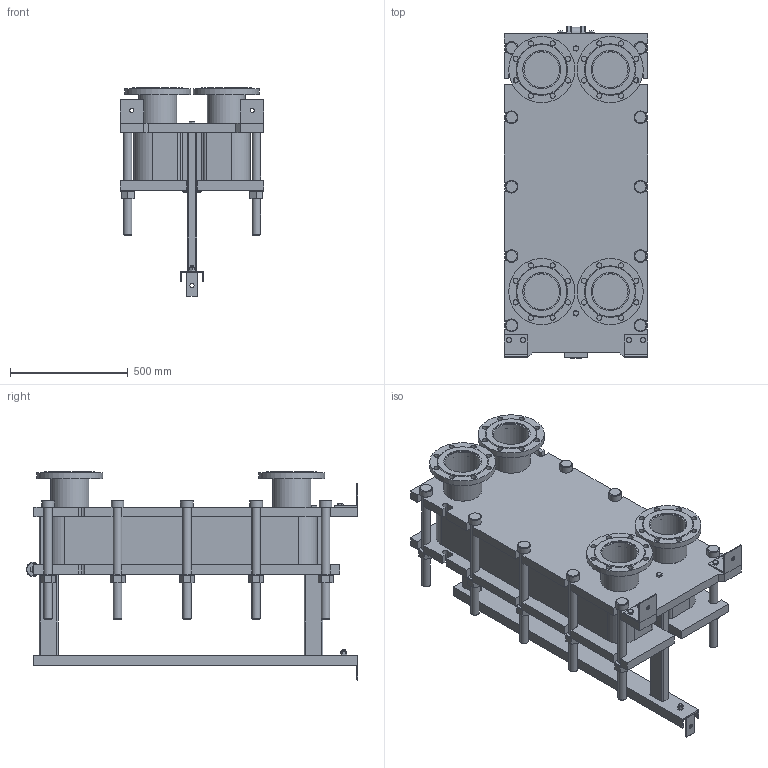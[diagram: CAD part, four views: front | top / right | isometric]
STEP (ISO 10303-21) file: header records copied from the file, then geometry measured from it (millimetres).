
FILE_DESCRIPTION(/* description */ (''),/* implementation_level */ '2;1');
FILE_NAME(/* name */ 'C:\Users\zhuro\Desktop\ENCO\TO\ЭН-041\ЭН-0,5-041-59-1.stp',/* time_stamp */ '2022-06-06T10:53:59+03:00',/* author */ ('zhuro'),/* organization */ (''),/* preprocessor_version */ 'ST-DEVELOPER v18.1',/* originating_system */ 'Autodesk Inventor 2022',/* authorisation */ '');
FILE_SCHEMA (('CONFIG_CONTROL_DESIGN','AUTOMOTIVE_DESIGN { 1 0 10303 214 3 1 1 }'));
Length unit declared in the file: millimetre
Products named in the file (1): ЭН-0,5-041-59-1
Bounding box: 610 x 1406.5 x 882.5 mm (x, y, z)
Volume: 192076085.1 mm3; surface area: 8120494.7 mm2
Topology: 52 solids, 52 shells, 711 faces, 1696 edges, 1094 vertices
Faces by surface type: plane 487, cylinder 177, cone 41, torus 6
Full cylindrical faces by diameter (mm): 8 x4, 10 x2, 16 x8, 18 x3, 22 x32, 36 x24, 50 x1, 54 x10, 60 x12, 151 x4, 161 x8, 280 x4
Entity records: 22667 total; most frequent: CARTESIAN_POINT 5230, DIRECTION 3644, ORIENTED_EDGE 3392, EDGE_CURVE 1696, AXIS2_PLACEMENT_3D 1272, LINE 1100, VECTOR 1100, VERTEX_POINT 1094
